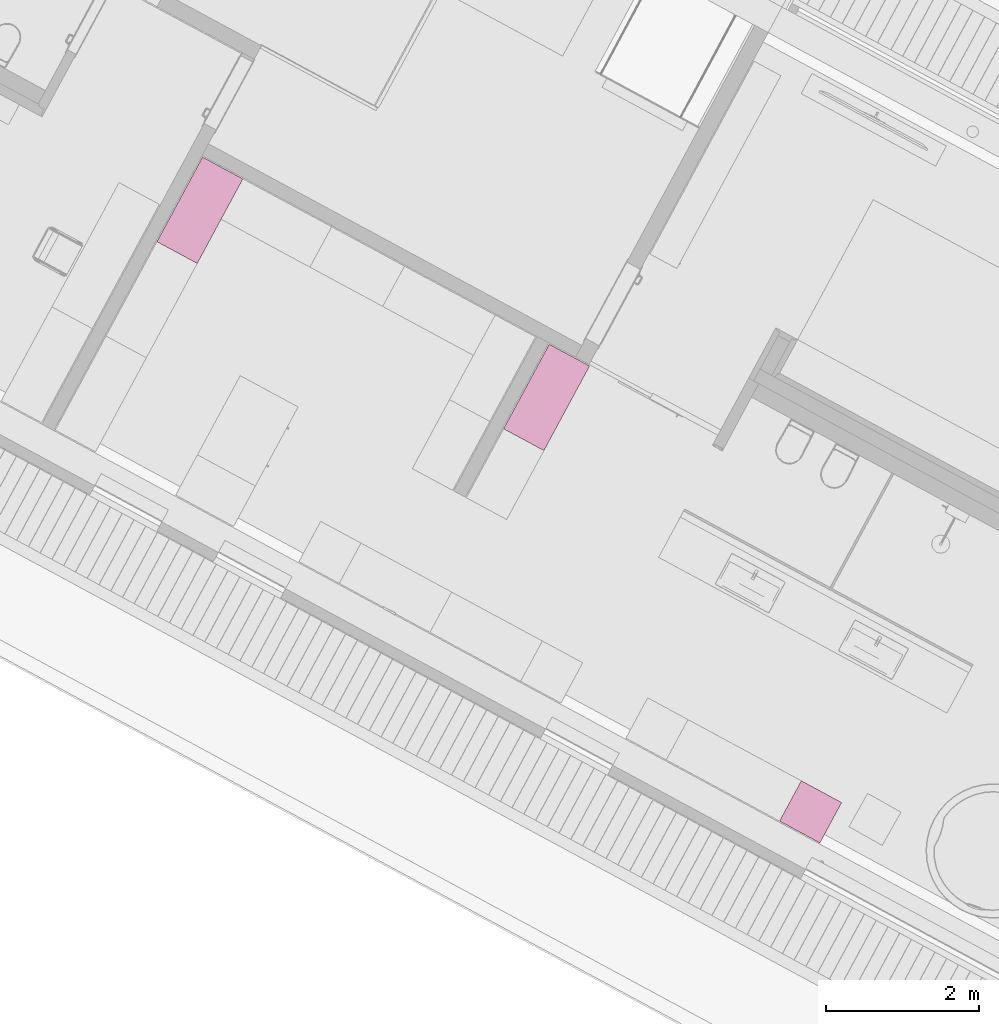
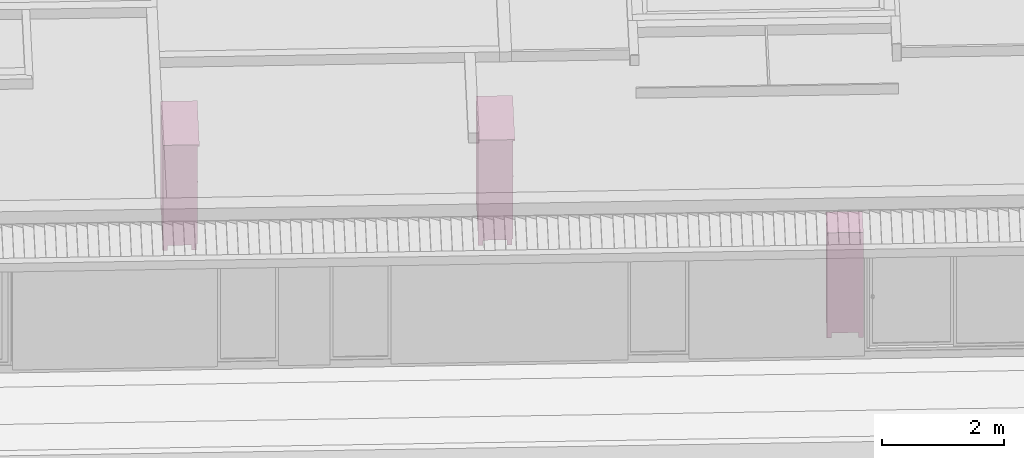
# One storey, part 23 of 48: 3 furnishings.
"""IFC2X3 building model written with IfcOpenShell, lengths in metres."""

from ifc_helpers import new_model, entity, si_unit, converted_unit, derived_unit, money_unit, direction, frame, origin_with_axes, place, context, subcontext, project, spatial, faceted_brep, source, transform, mapped, type_object, element, save


model = new_model("IFC2X3")

# Units and contexts
model_context = context("Model", 3, precision=1e-05, world=origin_with_axes(), true_north=direction((0.0, 1.0)))
body_context = subcontext(model_context, "Body", "Model", "MODEL_VIEW")
ifc_project = project(units=[si_unit("LENGTHUNIT", "METRE"), si_unit("AREAUNIT", "SQUARE_METRE"), si_unit("VOLUMEUNIT", "CUBIC_METRE"), converted_unit("PLANEANGLEUNIT", "DEGREE", entity("IfcPlaneAngleMeasure", 0.0174532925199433), si_unit("PLANEANGLEUNIT", "RADIAN"), dimensions=[0, 0, 0, 0, 0, 0, 0]), money_unit("EUR"), converted_unit("TIMEUNIT", "Year", entity("IfcTimeMeasure", 31556926.0), si_unit("TIMEUNIT", "SECOND"), dimensions=[0, 0, 1, 0, 0, 0, 0]), si_unit("MASSUNIT", "GRAM", prefix="KILO"), si_unit("THERMODYNAMICTEMPERATUREUNIT", "DEGREE_CELSIUS"), si_unit("LUMINOUSINTENSITYUNIT", "LUMEN"), si_unit("ENERGYUNIT", "JOULE", prefix="MEGA"), derived_unit("THERMALCONDUCTANCEUNIT", [(si_unit("POWERUNIT", "WATT"), 1), (si_unit("LENGTHUNIT", "METRE"), -1), (si_unit("THERMODYNAMICTEMPERATUREUNIT", "KELVIN"), -1)]), derived_unit("SPECIFICHEATCAPACITYUNIT", [(si_unit("ENERGYUNIT", "JOULE"), 1), (si_unit("MASSUNIT", "GRAM", prefix="KILO"), -1), (si_unit("THERMODYNAMICTEMPERATUREUNIT", "KELVIN"), -1)]), derived_unit("MASSDENSITYUNIT", [(si_unit("MASSUNIT", "GRAM", prefix="KILO"), 1), (si_unit("VOLUMEUNIT", "CUBIC_METRE"), -1)])], contexts=[model_context])

# Site, building, storey
site_placement = place(None, frame((-3.949935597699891, 1.740105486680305, 0.0), z_axis=(0.0, 0.0, 1.0), x_axis=(0.8799804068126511, -0.475009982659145, 0.0)))
site = spatial("IfcSite", under=ifc_project, at=site_placement, Name="Gelände", CompositionType="ELEMENT")
building_placement = place(site_placement, origin_with_axes())
building = spatial("IfcBuilding", under=site, at=building_placement, Name="Gebäude", CompositionType="ELEMENT")
storey_placement = place(building_placement, frame((0.0, 0.0, 4.55), z_axis=(0.0, 0.0, 1.0), x_axis=(1.0, 0.0, 0.0)))
storey = spatial("IfcBuildingStorey", under=building, at=storey_placement, Name="Staffelgeschoss", CompositionType="ELEMENT", Elevation=4.55)

# Furnishings
furnishing_element_type = type_object("IfcFurnishingElementType", Name="Kleiderschrank 22")
shared_shape_1 = source(origin_with_axes(), body_context, "Body", "Brep", [
    faceted_brep([(-0.02000000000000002, 0.6000000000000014, 0.12), (-0.02000000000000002, 0.6000000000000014, 2.05), (-0.02000000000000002, 0.5800000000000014, 2.05), (-0.02000000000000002, 0.5800000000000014, 0.12), (-0.5799999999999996, 0.6000000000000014, 0.12), (-0.5799999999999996, 0.6000000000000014, 2.05), (-0.5799999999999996, 0.5800000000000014, 2.05), (-0.5799999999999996, 0.5800000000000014, 0.12)], [[[0, 1, 2, 3]], [[4, 5, 1, 0]], [[1, 5, 6, 2]], [[3, 2, 6, 7]], [[0, 3, 7, 4]], [[7, 6, 5, 4]]]),
    faceted_brep([(-0.5999999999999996, 0.05000000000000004, 0.1), (-0.5999999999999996, 0.6000000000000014, 0.1), (-0.5799999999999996, 0.6000000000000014, 0.1), (-0.5799999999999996, 0.05000000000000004, 0.1), (-0.5999999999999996, 0.05000000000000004, 2.07), (-0.5999999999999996, 0.6000000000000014, 2.07), (-0.5799999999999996, 0.6000000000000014, 2.07), (-0.5799999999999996, 0.05000000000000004, 2.07)], [[[0, 1, 2, 3]], [[0, 4, 5, 1]], [[1, 5, 6, 2]], [[2, 6, 7, 3]], [[3, 7, 4, 0]], [[7, 6, 5, 4]]]),
    faceted_brep([(-0.02, 0.05000000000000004, 0.1), (-0.02, 0.6000000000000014, 0.1), (0.0, 0.6000000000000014, 0.1), (0.0, 0.05000000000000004, 0.1), (-0.02, 0.05000000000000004, 2.07), (-0.02, 0.6000000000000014, 2.07), (0.0, 0.6000000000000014, 2.07), (0.0, 0.05000000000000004, 2.07)], [[[0, 1, 2, 3]], [[0, 4, 5, 1]], [[1, 5, 6, 2]], [[2, 6, 7, 3]], [[3, 7, 4, 0]], [[7, 6, 5, 4]]]),
    faceted_brep([(-0.5799999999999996, 0.05000000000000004, 0.1), (-0.5799999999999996, 0.6000000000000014, 0.1), (-0.02000000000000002, 0.6000000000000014, 0.1), (-0.02000000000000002, 0.05000000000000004, 0.1), (-0.5799999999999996, 0.05000000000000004, 0.12), (-0.5799999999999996, 0.6000000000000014, 0.12), (-0.02000000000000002, 0.6000000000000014, 0.12), (-0.02000000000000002, 0.05000000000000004, 0.12)], [[[0, 1, 2, 3]], [[0, 4, 5, 1]], [[1, 5, 6, 2]], [[2, 6, 7, 3]], [[3, 7, 4, 0]], [[7, 6, 5, 4]]]),
    faceted_brep([(-0.5799999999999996, 0.05000000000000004, 2.05), (-0.5799999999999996, 0.6000000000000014, 2.05), (-0.02000000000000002, 0.6000000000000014, 2.05), (-0.02000000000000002, 0.05000000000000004, 2.05), (-0.5799999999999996, 0.05000000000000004, 2.07), (-0.5799999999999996, 0.6000000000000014, 2.07), (-0.02000000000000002, 0.6000000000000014, 2.07), (-0.02000000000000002, 0.05000000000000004, 2.07)], [[[0, 1, 2, 3]], [[0, 4, 5, 1]], [[1, 5, 6, 2]], [[2, 6, 7, 3]], [[3, 7, 4, 0]], [[7, 6, 5, 4]]]),
    faceted_brep([(-0.5999999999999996, 0.6000000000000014, 2.07), (-0.5999999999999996, 0.0, 2.07), (-0.5999999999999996, 0.0, 2.1), (-0.5999999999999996, 0.6000000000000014, 2.1), (0.0, 0.6000000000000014, 2.07), (0.0, 0.0, 2.07), (0.0, 0.0, 2.1), (0.0, 0.6000000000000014, 2.1)], [[[0, 1, 2, 3]], [[0, 4, 5, 1]], [[1, 5, 6, 2]], [[3, 2, 6, 7]], [[4, 0, 3, 7]], [[5, 4, 7, 6]]]),
    faceted_brep([(-0.07999999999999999, 0.5200000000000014, 0.0), (-0.07999999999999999, 0.5200000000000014, 0.1), (-0.07999999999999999, 0.6000000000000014, 0.1), (-0.07999999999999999, 0.6000000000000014, 0.0), (0.0, 0.5200000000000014, 0.0), (0.0, 0.5200000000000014, 0.1), (0.0, 0.6000000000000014, 0.1), (0.0, 0.6000000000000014, 0.0)], [[[0, 1, 2, 3]], [[4, 5, 1, 0]], [[1, 5, 6, 2]], [[3, 2, 6, 7]], [[0, 3, 7, 4]], [[7, 6, 5, 4]]]),
    faceted_brep([(-0.5999999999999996, 0.5200000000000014, 0.0), (-0.5999999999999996, 0.5200000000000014, 0.1), (-0.5999999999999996, 0.6000000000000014, 0.1), (-0.5999999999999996, 0.6000000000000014, 0.0), (-0.5199999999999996, 0.5200000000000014, 0.0), (-0.5199999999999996, 0.5200000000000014, 0.1), (-0.5199999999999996, 0.6000000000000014, 0.1), (-0.5199999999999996, 0.6000000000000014, 0.0)], [[[0, 1, 2, 3]], [[4, 5, 1, 0]], [[1, 5, 6, 2]], [[3, 2, 6, 7]], [[0, 3, 7, 4]], [[7, 6, 5, 4]]]),
    faceted_brep([(-0.07999999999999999, 0.05000000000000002, 0.0), (-0.07999999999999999, 0.05000000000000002, 0.1), (-0.07999999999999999, 0.13, 0.1), (-0.07999999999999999, 0.13, 0.0), (0.0, 0.05000000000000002, 0.0), (0.0, 0.05000000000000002, 0.1), (0.0, 0.13, 0.1), (0.0, 0.13, 0.0)], [[[0, 1, 2, 3]], [[4, 5, 1, 0]], [[1, 5, 6, 2]], [[3, 2, 6, 7]], [[0, 3, 7, 4]], [[7, 6, 5, 4]]]),
    faceted_brep([(-0.5999999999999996, 0.05000000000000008, 0.0), (-0.5999999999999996, 0.05000000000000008, 0.1), (-0.5999999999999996, 0.1300000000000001, 0.1), (-0.5999999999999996, 0.1300000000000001, 0.0), (-0.5199999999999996, 0.05000000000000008, 0.0), (-0.5199999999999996, 0.05000000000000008, 0.1), (-0.5199999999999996, 0.1300000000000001, 0.1), (-0.5199999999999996, 0.1300000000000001, 0.0)], [[[0, 1, 2, 3]], [[4, 5, 1, 0]], [[1, 5, 6, 2]], [[3, 2, 6, 7]], [[0, 3, 7, 4]], [[7, 6, 5, 4]]]),
    faceted_brep([(-0.2994999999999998, 0.05, 0.1104999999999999), (-0.2994999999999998, 0.03, 0.1104999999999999), (-0.2994999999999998, 0.03000000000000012, 2.0595), (-0.2994999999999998, 0.05000000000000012, 2.0595), (-0.2694999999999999, 0.05, 0.1405), (-0.2694999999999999, 0.03000000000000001, 0.1405), (-0.2694999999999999, 0.03000000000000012, 2.0295), (-0.2694999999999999, 0.05000000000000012, 2.0295)], [[[0, 1, 2, 3]], [[4, 5, 1, 0]], [[1, 5, 6, 2]], [[3, 2, 6, 7]], [[0, 3, 7, 4]], [[7, 6, 5, 4]]]),
    faceted_brep([(-0.04050000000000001, 0.05, 0.1405), (-0.04050000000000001, 0.03000000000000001, 0.1405), (-0.04050000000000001, 0.03000000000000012, 2.0295), (-0.04050000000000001, 0.05000000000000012, 2.0295), (-0.01050000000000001, 0.05, 0.1104999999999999), (-0.01050000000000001, 0.03, 0.1104999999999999), (-0.01050000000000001, 0.03000000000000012, 2.0595), (-0.01050000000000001, 0.05000000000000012, 2.0595)], [[[0, 1, 2, 3]], [[4, 5, 1, 0]], [[1, 5, 6, 2]], [[3, 2, 6, 7]], [[0, 3, 7, 4]], [[7, 6, 5, 4]]]),
    faceted_brep([(-0.01050000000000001, 0.05, 0.1104999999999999), (-0.01050000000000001, 0.03, 0.1104999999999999), (-0.2994999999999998, 0.03, 0.1104999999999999), (-0.2994999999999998, 0.05, 0.1104999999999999), (-0.04050000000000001, 0.05, 0.1405), (-0.04050000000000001, 0.03000000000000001, 0.1405), (-0.2694999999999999, 0.03000000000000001, 0.1405), (-0.2694999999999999, 0.05, 0.1405)], [[[0, 1, 2, 3]], [[4, 5, 1, 0]], [[1, 5, 6, 2]], [[3, 2, 6, 7]], [[0, 3, 7, 4]], [[7, 6, 5, 4]]]),
    faceted_brep([(-0.04050000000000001, 0.05000000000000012, 2.0295), (-0.04050000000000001, 0.03000000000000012, 2.0295), (-0.2694999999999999, 0.03000000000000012, 2.0295), (-0.2694999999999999, 0.05000000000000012, 2.0295), (-0.01050000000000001, 0.05000000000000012, 2.0595), (-0.01050000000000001, 0.03000000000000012, 2.0595), (-0.2994999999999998, 0.03000000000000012, 2.0595), (-0.2994999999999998, 0.05000000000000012, 2.0595)], [[[0, 1, 2, 3]], [[4, 5, 1, 0]], [[1, 5, 6, 2]], [[3, 2, 6, 7]], [[0, 3, 7, 4]], [[7, 6, 5, 4]]]),
    faceted_brep([(-0.2694999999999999, 0.04500000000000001, 0.1405), (-0.2694999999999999, 0.035, 0.1405), (-0.2694999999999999, 0.03500000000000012, 2.0295), (-0.2694999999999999, 0.04500000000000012, 2.0295), (-0.04050000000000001, 0.04500000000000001, 0.1405), (-0.04050000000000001, 0.035, 0.1405), (-0.04050000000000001, 0.03500000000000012, 2.0295), (-0.04050000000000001, 0.04500000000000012, 2.0295)], [[[0, 1, 2, 3]], [[4, 5, 1, 0]], [[1, 5, 6, 2]], [[3, 2, 6, 7]], [[0, 3, 7, 4]], [[7, 6, 5, 4]]]),
    faceted_brep([(-0.2593923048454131, 0.035, 0.954), (-0.2609999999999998, 0.035, 0.96), (-0.2593923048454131, 0.035, 0.966), (-0.2549999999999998, 0.035, 0.9703923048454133), (-0.2489999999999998, 0.035, 0.972), (-0.2429999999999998, 0.035, 0.9703923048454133), (-0.2386076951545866, 0.035, 0.966), (-0.2369999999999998, 0.035, 0.96), (-0.2386076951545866, 0.035, 0.954), (-0.2429999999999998, 0.035, 0.9496076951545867), (-0.2489999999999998, 0.035, 0.948), (-0.2549999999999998, 0.035, 0.9496076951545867), (-0.2593923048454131, 0.01, 0.954), (-0.2609999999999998, 0.01, 0.96), (-0.2593923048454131, 0.01, 0.966), (-0.2549999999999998, 0.01, 0.9703923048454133), (-0.2489999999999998, 0.01, 0.972), (-0.2429999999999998, 0.01, 0.9703923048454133), (-0.2386076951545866, 0.01, 0.966), (-0.2369999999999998, 0.01, 0.96), (-0.2386076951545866, 0.01, 0.954), (-0.2429999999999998, 0.01, 0.9496076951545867), (-0.2489999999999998, 0.01, 0.948), (-0.2549999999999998, 0.01, 0.9496076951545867)], [[[0, 1, 2, 3, 4, 5, 6, 7, 8, 9, 10, 11]], [[0, 12, 13, 1]], [[1, 13, 14, 2]], [[2, 14, 15, 3]], [[3, 15, 16, 4]], [[4, 16, 17, 5]], [[5, 17, 18, 6]], [[6, 18, 19, 7]], [[7, 19, 20, 8]], [[8, 20, 21, 9]], [[9, 21, 22, 10]], [[10, 22, 23, 11]], [[11, 23, 12, 0]], [[12, 23, 22, 21, 20, 19, 18, 17, 16, 15, 14, 13]]]),
    faceted_brep([(-0.5904999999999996, 0.05, 0.1104999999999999), (-0.5904999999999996, 0.03, 0.1104999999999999), (-0.5904999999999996, 0.03000000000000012, 2.0595), (-0.5904999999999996, 0.05000000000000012, 2.0595), (-0.5604999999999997, 0.05, 0.1405), (-0.5604999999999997, 0.03000000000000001, 0.1405), (-0.5604999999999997, 0.03000000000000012, 2.0295), (-0.5604999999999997, 0.05000000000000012, 2.0295)], [[[0, 1, 2, 3]], [[4, 5, 1, 0]], [[1, 5, 6, 2]], [[3, 2, 6, 7]], [[0, 3, 7, 4]], [[7, 6, 5, 4]]]),
    faceted_brep([(-0.3314999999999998, 0.05, 0.1405), (-0.3314999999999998, 0.03000000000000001, 0.1405), (-0.3314999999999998, 0.03000000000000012, 2.0295), (-0.3314999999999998, 0.05000000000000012, 2.0295), (-0.3014999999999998, 0.05, 0.1104999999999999), (-0.3014999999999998, 0.03, 0.1104999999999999), (-0.3014999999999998, 0.03000000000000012, 2.0595), (-0.3014999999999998, 0.05000000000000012, 2.0595)], [[[0, 1, 2, 3]], [[4, 5, 1, 0]], [[1, 5, 6, 2]], [[3, 2, 6, 7]], [[0, 3, 7, 4]], [[7, 6, 5, 4]]]),
    faceted_brep([(-0.3014999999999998, 0.05, 0.1104999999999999), (-0.3014999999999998, 0.03, 0.1104999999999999), (-0.5904999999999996, 0.03, 0.1104999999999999), (-0.5904999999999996, 0.05, 0.1104999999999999), (-0.3314999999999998, 0.05, 0.1405), (-0.3314999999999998, 0.03000000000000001, 0.1405), (-0.5604999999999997, 0.03000000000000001, 0.1405), (-0.5604999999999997, 0.05, 0.1405)], [[[0, 1, 2, 3]], [[4, 5, 1, 0]], [[1, 5, 6, 2]], [[3, 2, 6, 7]], [[0, 3, 7, 4]], [[7, 6, 5, 4]]]),
    faceted_brep([(-0.3314999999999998, 0.05000000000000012, 2.0295), (-0.3314999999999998, 0.03000000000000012, 2.0295), (-0.5604999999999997, 0.03000000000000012, 2.0295), (-0.5604999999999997, 0.05000000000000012, 2.0295), (-0.3014999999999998, 0.05000000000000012, 2.0595), (-0.3014999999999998, 0.03000000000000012, 2.0595), (-0.5904999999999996, 0.03000000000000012, 2.0595), (-0.5904999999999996, 0.05000000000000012, 2.0595)], [[[0, 1, 2, 3]], [[4, 5, 1, 0]], [[1, 5, 6, 2]], [[3, 2, 6, 7]], [[0, 3, 7, 4]], [[7, 6, 5, 4]]]),
    faceted_brep([(-0.5604999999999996, 0.04500000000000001, 0.1405), (-0.5604999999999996, 0.04000000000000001, 0.1405), (-0.5604999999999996, 0.04000000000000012, 2.0295), (-0.5604999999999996, 0.04500000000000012, 2.0295), (-0.3314999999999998, 0.04500000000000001, 0.1405), (-0.3314999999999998, 0.04000000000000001, 0.1405), (-0.3314999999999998, 0.04000000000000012, 2.0295), (-0.3314999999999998, 0.04500000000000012, 2.0295)], [[[0, 1, 2, 3]], [[4, 5, 1, 0]], [[1, 5, 6, 2]], [[3, 2, 6, 7]], [[0, 3, 7, 4]], [[7, 6, 5, 4]]]),
    faceted_brep([(-0.5604999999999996, 0.04000000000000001, 0.1405), (-0.5604999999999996, 0.03500000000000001, 0.1405), (-0.5604999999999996, 0.03500000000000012, 2.0295), (-0.5604999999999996, 0.04000000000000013, 2.0295), (-0.3314999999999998, 0.04000000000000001, 0.1405), (-0.3314999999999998, 0.03500000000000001, 0.1405), (-0.3314999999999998, 0.03500000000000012, 2.0295), (-0.3314999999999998, 0.04000000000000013, 2.0295)], [[[0, 1, 2, 3]], [[4, 5, 1, 0]], [[1, 5, 6, 2]], [[3, 2, 6, 7]], [[0, 3, 7, 4]], [[7, 6, 5, 4]]]),
    faceted_brep([(-0.3406076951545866, 0.035, 0.954), (-0.3449999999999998, 0.035, 0.9496076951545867), (-0.3509999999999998, 0.035, 0.948), (-0.3569999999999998, 0.035, 0.9496076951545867), (-0.3613923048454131, 0.035, 0.954), (-0.3629999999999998, 0.035, 0.96), (-0.3613923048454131, 0.035, 0.966), (-0.3569999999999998, 0.035, 0.9703923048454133), (-0.3509999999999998, 0.035, 0.972), (-0.3449999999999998, 0.035, 0.9703923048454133), (-0.3406076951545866, 0.035, 0.966), (-0.3389999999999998, 0.035, 0.96), (-0.3406076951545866, 0.01, 0.954), (-0.3449999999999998, 0.01, 0.9496076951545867), (-0.3509999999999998, 0.01, 0.948), (-0.3569999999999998, 0.01, 0.9496076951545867), (-0.3613923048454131, 0.01, 0.954), (-0.3629999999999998, 0.01, 0.96), (-0.3613923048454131, 0.01, 0.966), (-0.3569999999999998, 0.01, 0.9703923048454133), (-0.3509999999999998, 0.01, 0.972), (-0.3449999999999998, 0.01, 0.9703923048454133), (-0.3406076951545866, 0.01, 0.966), (-0.3389999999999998, 0.01, 0.96)], [[[0, 1, 2, 3, 4, 5, 6, 7, 8, 9, 10, 11]], [[1, 0, 12, 13]], [[2, 1, 13, 14]], [[3, 2, 14, 15]], [[4, 3, 15, 16]], [[5, 4, 16, 17]], [[6, 5, 17, 18]], [[7, 6, 18, 19]], [[8, 7, 19, 20]], [[9, 8, 20, 21]], [[10, 9, 21, 22]], [[11, 10, 22, 23]], [[0, 11, 23, 12]], [[12, 23, 22, 21, 20, 19, 18, 17, 16, 15, 14, 13]]]),
])
furnishing_placement = place(storey_placement, frame((22.40484062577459, 2.239992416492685, 0.0), z_axis=(0.0, 0.0, 1.0), x_axis=(-1.0, 0.0, 0.0)))
element("IfcFurnishingElement", 1, at=furnishing_placement, inside=storey, type_object=furnishing_element_type, Name="Objekt-0066", context=body_context, shape_type="MappedRepresentation", body=[
    mapped(shared_shape_1, transform((0.0, 0.0, 0.0))),
])
shared_shape_2 = source(origin_with_axes(), body_context, "Body", "Brep", [
    faceted_brep([(-0.02000000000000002, 0.6000000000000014, 0.12), (-0.02000000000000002, 0.6000000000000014, 2.05), (-0.02000000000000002, 0.5800000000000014, 2.05), (-0.02000000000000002, 0.5800000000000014, 0.12), (-1.238534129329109, 0.6000000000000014, 0.12), (-1.238534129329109, 0.6000000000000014, 2.05), (-1.238534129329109, 0.5800000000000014, 2.05), (-1.238534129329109, 0.5800000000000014, 0.12)], [[[0, 1, 2, 3]], [[4, 5, 1, 0]], [[1, 5, 6, 2]], [[3, 2, 6, 7]], [[0, 3, 7, 4]], [[7, 6, 5, 4]]]),
    faceted_brep([(-1.258534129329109, 0.05000000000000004, 0.1), (-1.258534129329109, 0.6000000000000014, 0.1), (-1.238534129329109, 0.6000000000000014, 0.1), (-1.238534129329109, 0.05000000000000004, 0.1), (-1.258534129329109, 0.05000000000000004, 2.07), (-1.258534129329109, 0.6000000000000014, 2.07), (-1.238534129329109, 0.6000000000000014, 2.07), (-1.238534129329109, 0.05000000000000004, 2.07)], [[[0, 1, 2, 3]], [[0, 4, 5, 1]], [[1, 5, 6, 2]], [[2, 6, 7, 3]], [[3, 7, 4, 0]], [[7, 6, 5, 4]]]),
    faceted_brep([(-0.02, 0.05000000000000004, 0.1), (-0.02, 0.6000000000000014, 0.1), (0.0, 0.6000000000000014, 0.1), (0.0, 0.05000000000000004, 0.1), (-0.02, 0.05000000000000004, 2.07), (-0.02, 0.6000000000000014, 2.07), (0.0, 0.6000000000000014, 2.07), (0.0, 0.05000000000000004, 2.07)], [[[0, 1, 2, 3]], [[0, 4, 5, 1]], [[1, 5, 6, 2]], [[2, 6, 7, 3]], [[3, 7, 4, 0]], [[7, 6, 5, 4]]]),
    faceted_brep([(-1.238534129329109, 0.05000000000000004, 0.1), (-1.238534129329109, 0.6000000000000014, 0.1), (-0.02000000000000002, 0.6000000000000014, 0.1), (-0.02000000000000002, 0.05000000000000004, 0.1), (-1.238534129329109, 0.05000000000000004, 0.12), (-1.238534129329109, 0.6000000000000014, 0.12), (-0.02000000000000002, 0.6000000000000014, 0.12), (-0.02000000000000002, 0.05000000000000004, 0.12)], [[[0, 1, 2, 3]], [[0, 4, 5, 1]], [[1, 5, 6, 2]], [[2, 6, 7, 3]], [[3, 7, 4, 0]], [[7, 6, 5, 4]]]),
    faceted_brep([(-1.238534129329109, 0.05000000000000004, 2.05), (-1.238534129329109, 0.6000000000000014, 2.05), (-0.02000000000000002, 0.6000000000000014, 2.05), (-0.02000000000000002, 0.05000000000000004, 2.05), (-1.238534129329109, 0.05000000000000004, 2.07), (-1.238534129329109, 0.6000000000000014, 2.07), (-0.02000000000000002, 0.6000000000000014, 2.07), (-0.02000000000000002, 0.05000000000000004, 2.07)], [[[0, 1, 2, 3]], [[0, 4, 5, 1]], [[1, 5, 6, 2]], [[2, 6, 7, 3]], [[3, 7, 4, 0]], [[7, 6, 5, 4]]]),
    faceted_brep([(-1.258534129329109, 0.6000000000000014, 2.07), (-1.258534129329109, 0.0, 2.07), (-1.258534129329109, 0.0, 2.1), (-1.258534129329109, 0.6000000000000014, 2.1), (0.0, 0.6000000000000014, 2.07), (0.0, 0.0, 2.07), (0.0, 0.0, 2.1), (0.0, 0.6000000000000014, 2.1)], [[[0, 1, 2, 3]], [[0, 4, 5, 1]], [[1, 5, 6, 2]], [[3, 2, 6, 7]], [[4, 0, 3, 7]], [[5, 4, 7, 6]]]),
    faceted_brep([(-0.08000000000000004, 0.5200000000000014, 0.0), (-0.08000000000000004, 0.5200000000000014, 0.1), (-0.08000000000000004, 0.6000000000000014, 0.1), (-0.08000000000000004, 0.6000000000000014, 0.0), (0.0, 0.5200000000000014, 0.0), (0.0, 0.5200000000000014, 0.1), (0.0, 0.6000000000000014, 0.1), (0.0, 0.6000000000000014, 0.0)], [[[0, 1, 2, 3]], [[4, 5, 1, 0]], [[1, 5, 6, 2]], [[3, 2, 6, 7]], [[0, 3, 7, 4]], [[7, 6, 5, 4]]]),
    faceted_brep([(-1.258534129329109, 0.5200000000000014, 0.0), (-1.258534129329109, 0.5200000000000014, 0.1), (-1.258534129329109, 0.6000000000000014, 0.1), (-1.258534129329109, 0.6000000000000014, 0.0), (-1.178534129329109, 0.5200000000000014, 0.0), (-1.178534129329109, 0.5200000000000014, 0.1), (-1.178534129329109, 0.6000000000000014, 0.1), (-1.178534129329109, 0.6000000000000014, 0.0)], [[[0, 1, 2, 3]], [[4, 5, 1, 0]], [[1, 5, 6, 2]], [[3, 2, 6, 7]], [[0, 3, 7, 4]], [[7, 6, 5, 4]]]),
    faceted_brep([(-0.08000000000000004, 0.05000000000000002, 0.0), (-0.08000000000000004, 0.05000000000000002, 0.1), (-0.08000000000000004, 0.13, 0.1), (-0.08000000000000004, 0.13, 0.0), (0.0, 0.05000000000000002, 0.0), (0.0, 0.05000000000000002, 0.1), (0.0, 0.13, 0.1), (0.0, 0.13, 0.0)], [[[0, 1, 2, 3]], [[4, 5, 1, 0]], [[1, 5, 6, 2]], [[3, 2, 6, 7]], [[0, 3, 7, 4]], [[7, 6, 5, 4]]]),
    faceted_brep([(-1.258534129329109, 0.05000000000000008, 0.0), (-1.258534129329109, 0.05000000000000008, 0.1), (-1.258534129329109, 0.1300000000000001, 0.1), (-1.258534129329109, 0.1300000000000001, 0.0), (-1.178534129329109, 0.05000000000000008, 0.0), (-1.178534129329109, 0.05000000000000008, 0.1), (-1.178534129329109, 0.1300000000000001, 0.1), (-1.178534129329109, 0.1300000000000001, 0.0)], [[[0, 1, 2, 3]], [[4, 5, 1, 0]], [[1, 5, 6, 2]], [[3, 2, 6, 7]], [[0, 3, 7, 4]], [[7, 6, 5, 4]]]),
    faceted_brep([(-0.6287670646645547, 0.05, 0.1104999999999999), (-0.6287670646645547, 0.03, 0.1104999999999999), (-0.6287670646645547, 0.03000000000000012, 2.0595), (-0.6287670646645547, 0.05000000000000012, 2.0595), (-0.5987670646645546, 0.05, 0.1405), (-0.5987670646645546, 0.03000000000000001, 0.1405), (-0.5987670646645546, 0.03000000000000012, 2.0295), (-0.5987670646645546, 0.05000000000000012, 2.0295)], [[[0, 1, 2, 3]], [[4, 5, 1, 0]], [[1, 5, 6, 2]], [[3, 2, 6, 7]], [[0, 3, 7, 4]], [[7, 6, 5, 4]]]),
    faceted_brep([(-0.04049999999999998, 0.05, 0.1405), (-0.04049999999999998, 0.03000000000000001, 0.1405), (-0.04049999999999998, 0.03000000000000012, 2.0295), (-0.04049999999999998, 0.05000000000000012, 2.0295), (-0.01050000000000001, 0.05, 0.1104999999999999), (-0.01050000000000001, 0.03, 0.1104999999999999), (-0.01050000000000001, 0.03000000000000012, 2.0595), (-0.01050000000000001, 0.05000000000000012, 2.0595)], [[[0, 1, 2, 3]], [[4, 5, 1, 0]], [[1, 5, 6, 2]], [[3, 2, 6, 7]], [[0, 3, 7, 4]], [[7, 6, 5, 4]]]),
    faceted_brep([(-0.01050000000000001, 0.05, 0.1104999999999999), (-0.01050000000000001, 0.03, 0.1104999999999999), (-0.6287670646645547, 0.03, 0.1104999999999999), (-0.6287670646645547, 0.05, 0.1104999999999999), (-0.04049999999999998, 0.05, 0.1405), (-0.04049999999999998, 0.03000000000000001, 0.1405), (-0.5987670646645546, 0.03000000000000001, 0.1405), (-0.5987670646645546, 0.05, 0.1405)], [[[0, 1, 2, 3]], [[4, 5, 1, 0]], [[1, 5, 6, 2]], [[3, 2, 6, 7]], [[0, 3, 7, 4]], [[7, 6, 5, 4]]]),
    faceted_brep([(-0.04049999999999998, 0.05000000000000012, 2.0295), (-0.04049999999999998, 0.03000000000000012, 2.0295), (-0.5987670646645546, 0.03000000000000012, 2.0295), (-0.5987670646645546, 0.05000000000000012, 2.0295), (-0.01050000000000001, 0.05000000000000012, 2.0595), (-0.01050000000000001, 0.03000000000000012, 2.0595), (-0.6287670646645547, 0.03000000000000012, 2.0595), (-0.6287670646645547, 0.05000000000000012, 2.0595)], [[[0, 1, 2, 3]], [[4, 5, 1, 0]], [[1, 5, 6, 2]], [[3, 2, 6, 7]], [[0, 3, 7, 4]], [[7, 6, 5, 4]]]),
    faceted_brep([(-0.5987670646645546, 0.04500000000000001, 0.1405), (-0.5987670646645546, 0.035, 0.1405), (-0.5987670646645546, 0.03500000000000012, 2.0295), (-0.5987670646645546, 0.04500000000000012, 2.0295), (-0.04049999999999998, 0.04500000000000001, 0.1405), (-0.04049999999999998, 0.035, 0.1405), (-0.04049999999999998, 0.03500000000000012, 2.0295), (-0.04049999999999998, 0.04500000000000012, 2.0295)], [[[0, 1, 2, 3]], [[4, 5, 1, 0]], [[1, 5, 6, 2]], [[3, 2, 6, 7]], [[0, 3, 7, 4]], [[7, 6, 5, 4]]]),
    faceted_brep([(-0.5886593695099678, 0.035, 0.954), (-0.5902670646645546, 0.035, 0.96), (-0.5886593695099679, 0.035, 0.966), (-0.5842670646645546, 0.035, 0.9703923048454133), (-0.5782670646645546, 0.035, 0.972), (-0.5722670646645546, 0.035, 0.9703923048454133), (-0.5678747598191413, 0.035, 0.966), (-0.5662670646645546, 0.035, 0.96), (-0.5678747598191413, 0.035, 0.954), (-0.5722670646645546, 0.035, 0.9496076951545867), (-0.5782670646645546, 0.035, 0.948), (-0.5842670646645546, 0.035, 0.9496076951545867), (-0.5886593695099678, 0.01, 0.954), (-0.5902670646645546, 0.01, 0.96), (-0.5886593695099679, 0.01, 0.966), (-0.5842670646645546, 0.01, 0.9703923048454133), (-0.5782670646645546, 0.01, 0.972), (-0.5722670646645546, 0.01, 0.9703923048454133), (-0.5678747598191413, 0.01, 0.966), (-0.5662670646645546, 0.01, 0.96), (-0.5678747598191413, 0.01, 0.954), (-0.5722670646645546, 0.01, 0.9496076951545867), (-0.5782670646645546, 0.01, 0.948), (-0.5842670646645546, 0.01, 0.9496076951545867)], [[[0, 1, 2, 3, 4, 5, 6, 7, 8, 9, 10, 11]], [[0, 12, 13, 1]], [[1, 13, 14, 2]], [[2, 14, 15, 3]], [[3, 15, 16, 4]], [[4, 16, 17, 5]], [[5, 17, 18, 6]], [[6, 18, 19, 7]], [[7, 19, 20, 8]], [[8, 20, 21, 9]], [[9, 21, 22, 10]], [[10, 22, 23, 11]], [[11, 23, 12, 0]], [[12, 23, 22, 21, 20, 19, 18, 17, 16, 15, 14, 13]]]),
    faceted_brep([(-1.249034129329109, 0.05, 0.1104999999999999), (-1.249034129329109, 0.03, 0.1104999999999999), (-1.249034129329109, 0.03000000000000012, 2.0595), (-1.249034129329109, 0.05000000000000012, 2.0595), (-1.219034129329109, 0.05, 0.1405), (-1.219034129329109, 0.03000000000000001, 0.1405), (-1.219034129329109, 0.03000000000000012, 2.0295), (-1.219034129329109, 0.05000000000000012, 2.0295)], [[[0, 1, 2, 3]], [[4, 5, 1, 0]], [[1, 5, 6, 2]], [[3, 2, 6, 7]], [[0, 3, 7, 4]], [[7, 6, 5, 4]]]),
    faceted_brep([(-0.6607670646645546, 0.05, 0.1405), (-0.6607670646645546, 0.03000000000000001, 0.1405), (-0.6607670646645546, 0.03000000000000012, 2.0295), (-0.6607670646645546, 0.05000000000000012, 2.0295), (-0.6307670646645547, 0.05, 0.1104999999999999), (-0.6307670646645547, 0.03, 0.1104999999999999), (-0.6307670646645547, 0.03000000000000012, 2.0595), (-0.6307670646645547, 0.05000000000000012, 2.0595)], [[[0, 1, 2, 3]], [[4, 5, 1, 0]], [[1, 5, 6, 2]], [[3, 2, 6, 7]], [[0, 3, 7, 4]], [[7, 6, 5, 4]]]),
    faceted_brep([(-0.6307670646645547, 0.05, 0.1104999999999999), (-0.6307670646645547, 0.03, 0.1104999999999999), (-1.249034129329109, 0.03, 0.1104999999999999), (-1.249034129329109, 0.05, 0.1104999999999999), (-0.6607670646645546, 0.05, 0.1405), (-0.6607670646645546, 0.03000000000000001, 0.1405), (-1.219034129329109, 0.03000000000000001, 0.1405), (-1.219034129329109, 0.05, 0.1405)], [[[0, 1, 2, 3]], [[4, 5, 1, 0]], [[1, 5, 6, 2]], [[3, 2, 6, 7]], [[0, 3, 7, 4]], [[7, 6, 5, 4]]]),
    faceted_brep([(-0.6607670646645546, 0.05000000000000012, 2.0295), (-0.6607670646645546, 0.03000000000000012, 2.0295), (-1.219034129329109, 0.03000000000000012, 2.0295), (-1.219034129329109, 0.05000000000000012, 2.0295), (-0.6307670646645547, 0.05000000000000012, 2.0595), (-0.6307670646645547, 0.03000000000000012, 2.0595), (-1.249034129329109, 0.03000000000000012, 2.0595), (-1.249034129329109, 0.05000000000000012, 2.0595)], [[[0, 1, 2, 3]], [[4, 5, 1, 0]], [[1, 5, 6, 2]], [[3, 2, 6, 7]], [[0, 3, 7, 4]], [[7, 6, 5, 4]]]),
    faceted_brep([(-1.219034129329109, 0.04500000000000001, 0.1405), (-1.219034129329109, 0.04000000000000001, 0.1405), (-1.219034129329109, 0.04000000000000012, 2.0295), (-1.219034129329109, 0.04500000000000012, 2.0295), (-0.6607670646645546, 0.04500000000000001, 0.1405), (-0.6607670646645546, 0.04000000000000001, 0.1405), (-0.6607670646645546, 0.04000000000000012, 2.0295), (-0.6607670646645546, 0.04500000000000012, 2.0295)], [[[0, 1, 2, 3]], [[4, 5, 1, 0]], [[1, 5, 6, 2]], [[3, 2, 6, 7]], [[0, 3, 7, 4]], [[7, 6, 5, 4]]]),
    faceted_brep([(-1.219034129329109, 0.04000000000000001, 0.1405), (-1.219034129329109, 0.03500000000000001, 0.1405), (-1.219034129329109, 0.03500000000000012, 2.0295), (-1.219034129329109, 0.04000000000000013, 2.0295), (-0.6607670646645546, 0.04000000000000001, 0.1405), (-0.6607670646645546, 0.03500000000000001, 0.1405), (-0.6607670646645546, 0.03500000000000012, 2.0295), (-0.6607670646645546, 0.04000000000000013, 2.0295)], [[[0, 1, 2, 3]], [[4, 5, 1, 0]], [[1, 5, 6, 2]], [[3, 2, 6, 7]], [[0, 3, 7, 4]], [[7, 6, 5, 4]]]),
    faceted_brep([(-0.6698747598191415, 0.035, 0.954), (-0.6742670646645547, 0.035, 0.9496076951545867), (-0.6802670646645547, 0.035, 0.948), (-0.6862670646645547, 0.035, 0.9496076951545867), (-0.690659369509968, 0.035, 0.954), (-0.6922670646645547, 0.035, 0.96), (-0.690659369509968, 0.035, 0.966), (-0.6862670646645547, 0.035, 0.9703923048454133), (-0.6802670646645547, 0.035, 0.972), (-0.6742670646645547, 0.035, 0.9703923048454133), (-0.6698747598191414, 0.035, 0.966), (-0.6682670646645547, 0.035, 0.96), (-0.6698747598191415, 0.01, 0.954), (-0.6742670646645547, 0.01, 0.9496076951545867), (-0.6802670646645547, 0.01, 0.948), (-0.6862670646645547, 0.01, 0.9496076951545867), (-0.690659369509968, 0.01, 0.954), (-0.6922670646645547, 0.01, 0.96), (-0.690659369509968, 0.01, 0.966), (-0.6862670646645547, 0.01, 0.9703923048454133), (-0.6802670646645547, 0.01, 0.972), (-0.6742670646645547, 0.01, 0.9703923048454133), (-0.6698747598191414, 0.01, 0.966), (-0.6682670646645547, 0.01, 0.96)], [[[0, 1, 2, 3, 4, 5, 6, 7, 8, 9, 10, 11]], [[1, 0, 12, 13]], [[2, 1, 13, 14]], [[3, 2, 14, 15]], [[4, 3, 15, 16]], [[5, 4, 16, 17]], [[6, 5, 17, 18]], [[7, 6, 18, 19]], [[8, 7, 19, 20]], [[9, 8, 20, 21]], [[10, 9, 21, 22]], [[11, 10, 22, 23]], [[0, 11, 23, 12]], [[12, 23, 22, 21, 20, 19, 18, 17, 16, 15, 14, 13]]]),
])
for number, where, z_axis, x_axis, name in (
    (2, (12.22319561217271, 5.70306071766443, 0.0), (0.0, 0.0, 1.0), (0.0, 1.0, 0.0), "Objekt-0066"),
    (3, (17.38349488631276, 5.70306071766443, 0.0), (0.0, 0.0, 1.0), (0.0, 1.0, 0.0), "Objekt-0066"),
):
    element("IfcFurnishingElement", number, at=place(storey_placement, frame(where, z_axis=z_axis, x_axis=x_axis)), inside=storey, type_object=furnishing_element_type, Name=name, context=body_context, shape_type="MappedRepresentation", body=[
        mapped(shared_shape_2, transform((0.0, 0.0, 0.0))),
    ])

save(model, "model.ifc")
